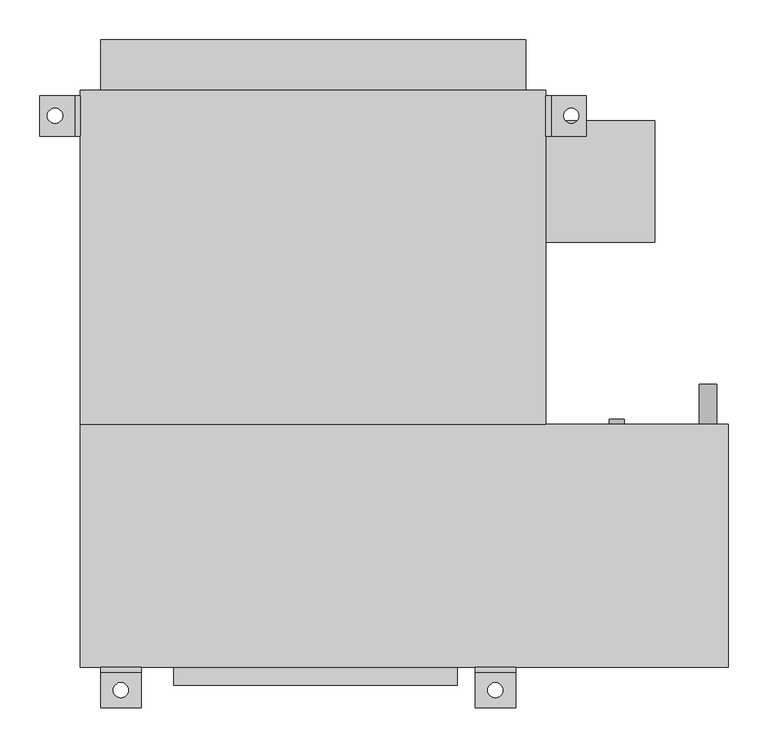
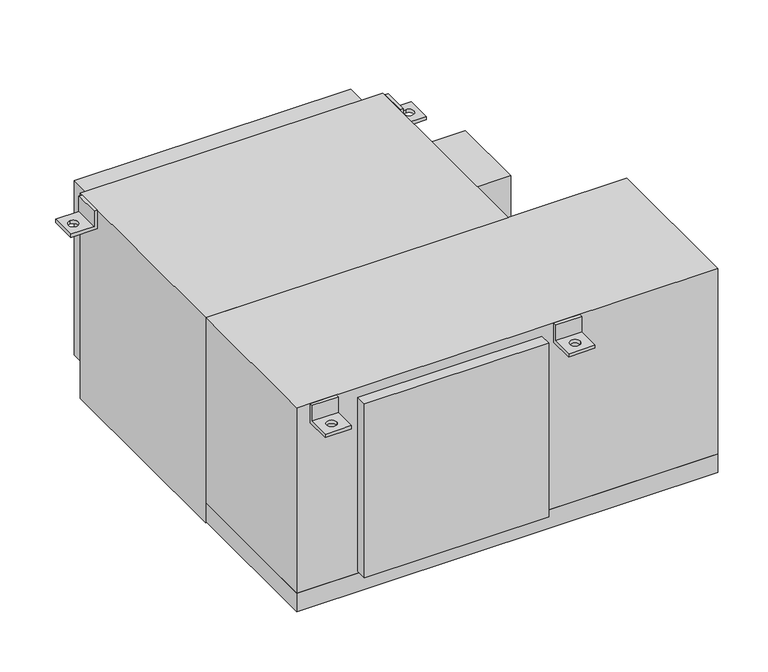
"""IFC4 building model written with IfcOpenShell, lengths in millimetres: proxy geometry, Concealed_High_Capacity_Horizontal_Fan_Coil_Unit_With_Plenum_-_42DCA_-_CARRIER_-_2-Pipe_Cool-EHeat_ValveEnclosure_RH_2022 : Size 06 - 277v/60Hz/1Ph - 6 Row 4.0kW."""

from ifc_helpers import new_model, si_unit, point, frame, frame_2d, origin, place, context, project, spatial, polyline, circle_curve, trimmed, segment, composite_curve, outline, extrude, source, transform, mapped, element, save
from ifc_brep_helpers import plane_surface, revolved_surface, advanced_brep


def mechanical_equipment_e9e5bf8a(model_context):
    return source(origin(), model_context, "Body", "SolidModel", [
        advanced_brep(
        [(406.4, -390.525, 0.0), (406.4, -396.875, 0.0), (406.4, -396.875, -31.75), (406.4, -441.325, -31.75), (406.4, -441.325, -38.1), (406.4, -390.525, -38.1), (355.6, -390.525, 0.0), (355.6, -390.525, -38.1), (355.6, -441.325, -38.1), (355.6, -441.325, -31.75), (355.6, -396.875, -31.75), (355.6, -396.875, 0.0), (371.475, -419.1, -31.75), (390.525, -419.1, -31.75), (390.525, -419.1, -38.1), (371.475, -419.1, -38.1)],
        [
            (0, 1),
            (1, 2),
            (2, 3),
            (3, 4),
            (4, 5),
            (5, 0),
            (6, 7),
            (7, 8),
            (8, 9),
            (9, 10),
            (10, 11),
            (11, 6),
            (0, 6),
            (11, 1),
            (10, 2),
            (9, 3),
            (12, 13, circle_curve(frame((381.0, -419.1, -31.75), z_axis=(0.0, 0.0, -1.0), x_axis=(1.0, 0.0, 0.0)), 9.525)),
            (13, 12, circle_curve(frame((381.0, -419.1, -31.75), z_axis=(0.0, 0.0, -1.0), x_axis=(1.0, 0.0, 0.0)), 9.525)),
            (8, 4),
            (7, 5),
            (14, 15, circle_curve(frame((381.0, -419.1, -38.1), z_axis=(0.0, 0.0, 1.0), x_axis=(1.0, 0.0, 0.0)), 9.525)),
            (15, 14, circle_curve(frame((381.0, -419.1, -38.1), z_axis=(0.0, 0.0, 1.0), x_axis=(1.0, 0.0, 0.0)), 9.525)),
            (12, 15),
            (14, 13),
        ],
        [
            plane_surface(frame((406.4, -396.875, 0.0), z_axis=(1.0, 0.0, 0.0), x_axis=(0.0, -1.0, 0.0))),
            plane_surface(frame((355.6, -396.875, 0.0), z_axis=(-1.0, 0.0, 0.0), x_axis=(0.0, 1.0, 0.0))),
            plane_surface(frame((406.4, -390.525, 0.0), z_axis=(0.0, 0.0, 1.0), x_axis=(-1.0, 0.0, 0.0))),
            plane_surface(frame((406.4, -396.875, 0.0), z_axis=(0.0, -1.0, 0.0), x_axis=(-1.0, 0.0, 0.0))),
            plane_surface(frame((406.4, -396.875, -31.75), z_axis=(0.0, 0.0, 1.0), x_axis=(-1.0, 0.0, 0.0))),
            plane_surface(frame((406.4, -441.325, -31.75), z_axis=(0.0, -1.0, 0.0), x_axis=(-1.0, 0.0, 0.0))),
            plane_surface(frame((406.4, -441.325, -38.1), z_axis=(0.0, 0.0, -1.0), x_axis=(-1.0, 0.0, 0.0))),
            plane_surface(frame((406.4, -390.525, -38.1), z_axis=(0.0, 1.0, 0.0), x_axis=(-1.0, 0.0, 0.0))),
            revolved_surface(polyline([(390.525, -419.1, -38.1), (390.525, -419.1, -31.75)]), (381.0, -419.1, -31.75), (0.0, 0.0, -1.0)),
        ],
        [
            (0, [[1, 2, 3, 4, 5, 6]]),
            (1, [[7, 8, 9, 10, 11, 12]]),
            (2, [[-1, 13, -12, 14]]),
            (3, [[-2, -14, -11, 15]]),
            (4, [[-3, -15, -10, 16], [17, 18]]),
            (5, [[-4, -16, -9, 19]]),
            (6, [[-5, -19, -8, 20], [21, 22]]),
            (7, [[-6, -20, -7, -13]]),
            (8, [[23, -21, 24, -17]]),
            (8, [[-23, -18, -24, -22]]),
        ],
    ),
        advanced_brep(
        [(-63.5, -390.525, -38.1), (-63.5, -390.525, 0.0), (-63.5, -396.875, 0.0), (-63.5, -396.875, -31.75), (-63.5, -441.325, -31.75), (-63.5, -441.325, -38.1), (-114.3, -390.525, -38.1), (-114.3, -441.325, -38.1), (-114.3, -441.325, -31.75), (-114.3, -396.875, -31.75), (-114.3, -396.875, 0.0), (-114.3, -390.525, 0.0), (-98.425, -419.1, -31.75), (-79.375, -419.1, -31.75), (-79.375, -419.1, -38.1), (-98.425, -419.1, -38.1)],
        [
            (0, 1),
            (1, 2),
            (2, 3),
            (3, 4),
            (4, 5),
            (5, 0),
            (6, 7),
            (7, 8),
            (8, 9),
            (9, 10),
            (10, 11),
            (11, 6),
            (0, 6),
            (11, 1),
            (10, 2),
            (9, 3),
            (8, 4),
            (12, 13, circle_curve(frame((-88.9, -419.1, -31.75), z_axis=(0.0, 0.0, -1.0), x_axis=(1.0, 0.0, 0.0)), 9.525)),
            (13, 12, circle_curve(frame((-88.9, -419.1, -31.75), z_axis=(0.0, 0.0, -1.0), x_axis=(1.0, 0.0, 0.0)), 9.525)),
            (7, 5),
            (14, 15, circle_curve(frame((-88.9, -419.1, -38.1), z_axis=(0.0, 0.0, 1.0), x_axis=(1.0, 0.0, 0.0)), 9.525)),
            (15, 14, circle_curve(frame((-88.9, -419.1, -38.1), z_axis=(0.0, 0.0, 1.0), x_axis=(1.0, 0.0, 0.0)), 9.525)),
            (12, 15),
            (14, 13),
        ],
        [
            plane_surface(frame((-63.5, -390.525, -38.1), z_axis=(1.0, 0.0, 0.0), x_axis=(0.0, 0.0, 1.0))),
            plane_surface(frame((-114.3, -390.525, -38.1), z_axis=(-1.0, 0.0, 0.0), x_axis=(0.0, 0.0, -1.0))),
            plane_surface(frame((-63.5, -390.525, -38.1), z_axis=(0.0, 1.0, 0.0), x_axis=(-1.0, 0.0, 0.0))),
            plane_surface(frame((-63.5, -390.525, 0.0), z_axis=(0.0, 0.0, 1.0), x_axis=(-1.0, 0.0, 0.0))),
            plane_surface(frame((-63.5, -396.875, 0.0), z_axis=(0.0, -1.0, 0.0), x_axis=(-1.0, 0.0, 0.0))),
            plane_surface(frame((-63.5, -396.875, -31.75), z_axis=(0.0, 0.0, 1.0), x_axis=(-1.0, 0.0, 0.0))),
            plane_surface(frame((-63.5, -441.325, -31.75), z_axis=(0.0, -1.0, 0.0), x_axis=(-1.0, 0.0, 0.0))),
            plane_surface(frame((-63.5, -441.325, -38.1), z_axis=(0.0, 0.0, -1.0), x_axis=(-1.0, 0.0, 0.0))),
            revolved_surface(polyline([(-79.375, -419.1, -38.1), (-79.375, -419.1, -31.75)]), (-88.9, -419.1, -31.75), (0.0, 0.0, -1.0)),
        ],
        [
            (0, [[1, 2, 3, 4, 5, 6]]),
            (1, [[7, 8, 9, 10, 11, 12]]),
            (2, [[-1, 13, -12, 14]]),
            (3, [[-2, -14, -11, 15]]),
            (4, [[-3, -15, -10, 16]]),
            (5, [[-4, -16, -9, 17], [18, 19]]),
            (6, [[-5, -17, -8, 20]]),
            (7, [[-6, -20, -7, -13], [21, 22]]),
            (8, [[23, -21, 24, -18]]),
            (8, [[-23, -19, -24, -22]]),
        ],
    ),
        extrude(outline(composite_curve([segment(trimmed(circle_curve(frame_2d((-400.05, 647.7)), 11.1125), [point((-400.05, 636.5875))], [point((-400.05, 658.8125))], False, "CARTESIAN"), True, "CONTINUOUS"), segment(trimmed(circle_curve(frame_2d((-400.05, 647.7)), 11.1125), [point((-400.05, 658.8125))], [point((-400.05, 636.5875))], False, "CARTESIAN"), True, "CONTINUOUS")], self_intersect=False)), frame((0.0, -85.725, 0.0), z_axis=(0.0, 1.0, 0.0), x_axis=(0.0, 0.0, 1.0)), (0.0, 0.0, 1.0), 50.8),
        extrude(outline(composite_curve([segment(trimmed(circle_curve(frame_2d((-44.45, 533.4)), 9.525), [point((-44.45, 523.875))], [point((-44.45, 542.925))], False, "CARTESIAN"), True, "CONTINUOUS"), segment(trimmed(circle_curve(frame_2d((-44.45, 533.4)), 9.525), [point((-44.45, 542.925))], [point((-44.45, 523.875))], False, "CARTESIAN"), True, "CONTINUOUS")], self_intersect=False)), frame((0.0, -85.725, 0.0), z_axis=(0.0, 1.0, 0.0), x_axis=(0.0, 0.0, 1.0)), (0.0, 0.0, 1.0), 6.35),
        extrude(outline(composite_curve([segment(trimmed(circle_curve(frame_2d((-276.225, 533.4)), 9.525), [point((-276.225, 523.875))], [point((-276.225, 542.925))], False, "CARTESIAN"), True, "CONTINUOUS"), segment(trimmed(circle_curve(frame_2d((-276.225, 533.4)), 9.525), [point((-276.225, 542.925))], [point((-276.225, 523.875))], False, "CARTESIAN"), True, "CONTINUOUS")], self_intersect=False)), frame((0.0, -85.725, 0.0), z_axis=(0.0, 1.0, 0.0), x_axis=(0.0, 0.0, 1.0)), (0.0, 0.0, 1.0), 6.35),
        advanced_brep(
        [(-139.7, 327.025, -38.1), (-190.5, 327.025, -38.1), (-190.5, 327.025, -31.75), (-146.05, 327.025, -31.75), (-146.05, 327.025, 0.0), (-139.7, 327.025, 0.0), (-139.7, 276.225, -38.1), (-139.7, 276.225, 0.0), (-146.05, 276.225, 0.0), (-146.05, 276.225, -31.75), (-190.5, 276.225, -31.75), (-190.5, 276.225, -38.1), (-171.45, 292.1, -38.1), (-171.45, 311.15, -38.1), (-171.45, 311.15, -31.75), (-171.45, 292.1, -31.75)],
        [
            (0, 1),
            (1, 2),
            (2, 3),
            (3, 4),
            (4, 5),
            (5, 0),
            (6, 7),
            (7, 8),
            (8, 9),
            (9, 10),
            (10, 11),
            (11, 6),
            (0, 6),
            (11, 1),
            (12, 13, circle_curve(frame((-171.45, 301.625, -38.1), z_axis=(0.0, 0.0, 1.0), x_axis=(0.0, -1.0, 0.0)), 9.525)),
            (13, 12, circle_curve(frame((-171.45, 301.625, -38.1), z_axis=(0.0, 0.0, 1.0), x_axis=(0.0, -1.0, 0.0)), 9.525)),
            (10, 2),
            (9, 3),
            (14, 15, circle_curve(frame((-171.45, 301.625, -31.75), z_axis=(0.0, 0.0, -1.0), x_axis=(0.0, -1.0, 0.0)), 9.525)),
            (15, 14, circle_curve(frame((-171.45, 301.625, -31.75), z_axis=(0.0, 0.0, -1.0), x_axis=(0.0, -1.0, 0.0)), 9.525)),
            (8, 4),
            (7, 5),
            (14, 13),
            (12, 15),
        ],
        [
            plane_surface(frame((-139.7, 327.025, -38.1), z_axis=(0.0, 1.0, 0.0), x_axis=(-1.0, 0.0, 0.0))),
            plane_surface(frame((-139.7, 276.225, -38.1), z_axis=(0.0, -1.0, 0.0), x_axis=(1.0, 0.0, 0.0))),
            plane_surface(frame((-139.7, 327.025, -38.1), z_axis=(0.0, 0.0, -1.0), x_axis=(0.0, -1.0, 0.0))),
            plane_surface(frame((-190.5, 327.025, -38.1), z_axis=(-1.0, 0.0, 0.0), x_axis=(0.0, -1.0, 0.0))),
            plane_surface(frame((-190.5, 327.025, -31.75), z_axis=(0.0, 0.0, 1.0), x_axis=(0.0, -1.0, 0.0))),
            plane_surface(frame((-146.05, 327.025, -31.75), z_axis=(-1.0, 0.0, 0.0), x_axis=(0.0, -1.0, 0.0))),
            plane_surface(frame((-146.05, 327.025, 0.0), z_axis=(0.0, 0.0, 1.0), x_axis=(0.0, -1.0, 0.0))),
            plane_surface(frame((-139.7, 327.025, 0.0), z_axis=(1.0, 0.0, 0.0), x_axis=(0.0, -1.0, 0.0))),
            revolved_surface(polyline([(-171.45, 292.1, -38.1), (-171.45, 292.1, -31.75)]), (-171.45, 301.625, -31.75), (0.0, 0.0, -1.0)),
        ],
        [
            (0, [[1, 2, 3, 4, 5, 6]]),
            (1, [[7, 8, 9, 10, 11, 12]]),
            (2, [[-1, 13, -12, 14], [15, 16]]),
            (3, [[-2, -14, -11, 17]]),
            (4, [[-3, -17, -10, 18], [19, 20]]),
            (5, [[-4, -18, -9, 21]]),
            (6, [[-5, -21, -8, 22]]),
            (7, [[-6, -22, -7, -13]]),
            (8, [[23, -15, 24, -19]]),
            (8, [[-23, -20, -24, -16]]),
        ],
    ),
        advanced_brep(
        [(444.5, 327.025, -38.1), (444.5, 327.025, 0.0), (450.85, 327.025, 0.0), (450.85, 327.025, -31.75), (495.3, 327.025, -31.75), (495.3, 327.025, -38.1), (444.5, 276.225, -38.1), (495.3, 276.225, -38.1), (495.3, 276.225, -31.75), (450.85, 276.225, -31.75), (450.85, 276.225, 0.0), (444.5, 276.225, 0.0), (476.25, 311.15, -31.75), (476.25, 292.1, -31.75), (476.25, 292.1, -38.1), (476.25, 311.15, -38.1)],
        [
            (0, 1),
            (1, 2),
            (2, 3),
            (3, 4),
            (4, 5),
            (5, 0),
            (6, 7),
            (7, 8),
            (8, 9),
            (9, 10),
            (10, 11),
            (11, 6),
            (0, 6),
            (11, 1),
            (10, 2),
            (9, 3),
            (8, 4),
            (12, 13, circle_curve(frame((476.25, 301.625, -31.75), z_axis=(0.0, 0.0, -1.0), x_axis=(0.0, -1.0, 0.0)), 9.525)),
            (13, 12, circle_curve(frame((476.25, 301.625, -31.75), z_axis=(0.0, 0.0, -1.0), x_axis=(0.0, -1.0, 0.0)), 9.525)),
            (7, 5),
            (14, 15, circle_curve(frame((476.25, 301.625, -38.1), z_axis=(0.0, 0.0, 1.0), x_axis=(0.0, -1.0, 0.0)), 9.525)),
            (15, 14, circle_curve(frame((476.25, 301.625, -38.1), z_axis=(0.0, 0.0, 1.0), x_axis=(0.0, -1.0, 0.0)), 9.525)),
            (12, 15),
            (14, 13),
        ],
        [
            plane_surface(frame((-139.7, 327.025, -38.1), z_axis=(0.0, 1.0, 0.0), x_axis=(-1.0, 0.0, 0.0))),
            plane_surface(frame((-139.7, 276.225, -38.1), z_axis=(0.0, -1.0, 0.0), x_axis=(1.0, 0.0, 0.0))),
            plane_surface(frame((444.5, 327.025, -38.1), z_axis=(-1.0, 0.0, 0.0), x_axis=(0.0, -1.0, 0.0))),
            plane_surface(frame((444.5, 327.025, 0.0), z_axis=(0.0, 0.0, 1.0), x_axis=(0.0, -1.0, 0.0))),
            plane_surface(frame((450.85, 327.025, 0.0), z_axis=(1.0, 0.0, 0.0), x_axis=(0.0, -1.0, 0.0))),
            plane_surface(frame((450.85, 327.025, -31.75), z_axis=(0.0, 0.0, 1.0), x_axis=(0.0, -1.0, 0.0))),
            plane_surface(frame((495.3, 327.025, -31.75), z_axis=(1.0, 0.0, 0.0), x_axis=(0.0, -1.0, 0.0))),
            plane_surface(frame((495.3, 327.025, -38.1), z_axis=(0.0, 0.0, -1.0), x_axis=(0.0, -1.0, 0.0))),
            revolved_surface(polyline([(476.25, 292.1, -38.1), (476.25, 292.1, -31.75)]), (476.25, 301.625, -31.75), (0.0, 0.0, -1.0)),
        ],
        [
            (0, [[1, 2, 3, 4, 5, 6]]),
            (1, [[7, 8, 9, 10, 11, 12]]),
            (2, [[-1, 13, -12, 14]]),
            (3, [[-2, -14, -11, 15]]),
            (4, [[-3, -15, -10, 16]]),
            (5, [[-4, -16, -9, 17], [18, 19]]),
            (6, [[-5, -17, -8, 20]]),
            (7, [[-6, -20, -7, -13], [21, 22]]),
            (8, [[23, -21, 24, -18]]),
            (8, [[-23, -19, -24, -22]]),
        ],
    ),
        extrude(outline(polyline([(-114.3, 396.875), (419.1, 396.875), (419.1, 333.375), (-114.3, 333.375), (-114.3, 396.875)])), frame((0.0, 0.0, -377.825), z_axis=(0.0, 0.0, 1.0), x_axis=(1.0, 0.0, 0.0)), (0.0, 0.0, 1.0), 355.6),
        extrude(outline(polyline([(581.025, 295.275), (581.025, 142.875), (444.5, 142.875), (444.5, 295.275), (581.025, 295.275)])), frame((0.0, 0.0, -254.0), z_axis=(0.0, 0.0, 1.0), x_axis=(1.0, 0.0, 0.0)), (0.0, 0.0, 1.0), 152.4),
        extrude(outline(polyline([(333.375, -412.75), (-22.225, -412.75), (-22.225, -390.525), (333.375, -390.525), (333.375, -412.75)])), frame((0.0, 0.0, -374.65), z_axis=(0.0, 0.0, 1.0), x_axis=(1.0, 0.0, 0.0)), (0.0, 0.0, 1.0), 355.6),
        extrude(outline(polyline([(444.5, -85.725), (-139.7, -85.725), (-139.7, 333.375), (444.5, 333.375), (444.5, -85.725)])), frame((0.0, 0.0, -419.1), z_axis=(0.0, 0.0, 1.0), x_axis=(1.0, 0.0, 0.0)), (0.0, 0.0, 1.0), 419.1),
        extrude(outline(polyline([(673.1, -85.725), (673.1, -390.525), (-139.7, -390.525), (-139.7, -85.725), (673.1, -85.725)])), frame((0.0, 0.0, -377.825), z_axis=(0.0, 0.0, 1.0), x_axis=(1.0, 0.0, 0.0)), (0.0, 0.0, 1.0), 377.825),
        extrude(outline(polyline([(673.1, -85.725), (673.1, -390.525), (-139.7, -390.525), (-139.7, -85.725), (673.1, -85.725)])), frame((0.0, 0.0, -415.925), z_axis=(0.0, 0.0, 1.0), x_axis=(1.0, 0.0, 0.0)), (0.0, 0.0, 1.0), 38.1),
    ])


if __name__ == "__main__":
    model = new_model("IFC4")
    model_context = context("Model", 3, world=origin())
    ifc_project = project(units=[si_unit("LENGTHUNIT", "METRE", prefix="MILLI")], contexts=[model_context])
    site = spatial("IfcSite", under=ifc_project)
    building = spatial("IfcBuilding", under=site)
    placement = place(None, origin())
    mechanical_equipment_shape = mechanical_equipment_e9e5bf8a(model_context)
    element("IfcBuildingElementProxy", 1, Name="Concealed_High_Capacity_Horizontal_Fan_Coil_Unit_With_Plenum_-_42DCA_-_CARRIER_-_2-Pipe_Cool-EHeat_ValveEnclosure_RH_2022 : Size 06 - 277v/60Hz/1Ph - 6 Row 4.0kW", ObjectType="Concealed_High_Capacity_Horizontal_Fan_Coil_Unit_With_Plenum_-_42DCA_-_CARRIER_-_2-Pipe_Cool-EHeat_ValveEnclosure_RH_2022 : Size 06 - 277v/60Hz/1Ph - 6 Row 4.0kW", at=placement, inside=building, context=model_context, shape_type="MappedRepresentation", body=[
        mapped(mechanical_equipment_shape, transform((0.0, 0.0, 0.0), x_axis=(1.0, 0.0, 0.0), y_axis=(0.0, 1.0, 0.0), z_axis=(0.0, 0.0, 1.0))),
    ])
    save(model, "model.ifc")
